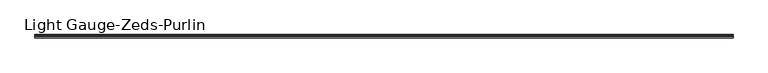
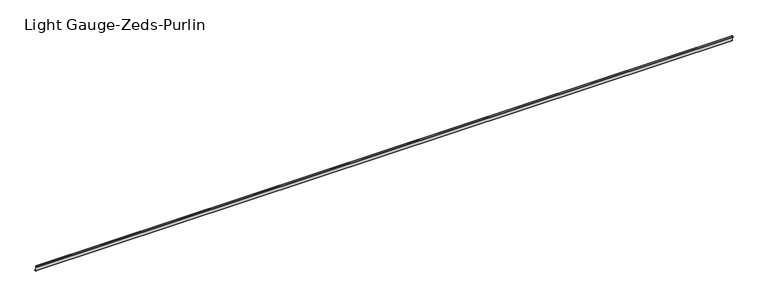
"""IFC4 building model written with IfcOpenShell, lengths in millimetres: beam geometry, Light Gauge-Zeds-Purlin : Metsec-202Z20."""

from ifc_helpers import new_model, si_unit, point, frame, frame_2d, origin, place, context, project, spatial, polyline, circle_curve, trimmed, segment, composite_curve, outline, extrude, source, transform, mapped, element, save


def light_gauge_zeds_purlin_6e7aff67(model_context):
    return source(origin(), model_context, "Body", "SweptSolid", [
        extrude(outline(composite_curve([segment(trimmed(circle_curve(frame_2d((55.8, -97.9)), 4.0), [point((59.8, -97.9))], [point((55.8, -101.9))], False, "CARTESIAN"), True, "CONTINUOUS"), segment(polyline([(55.8, -101.9), (3.8, -101.9)]), True, "CONTINUOUS"), segment(trimmed(circle_curve(frame_2d((3.8, -97.9)), 4.0), [point((3.8, -101.9))], [point((-0.2, -97.9))], False, "CARTESIAN"), True, "CONTINUOUS"), segment(polyline([(-0.2, -97.9), (-0.2, 96.1)]), True, "CONTINUOUS"), segment(trimmed(circle_curve(frame_2d((-2.2, 96.1)), 2.0), [point((-0.2, 96.1))], [point((-2.2, 98.1))], True, "CARTESIAN"), True, "CONTINUOUS"), segment(polyline([(-2.2, 98.1), (-59.2, 98.1)]), True, "CONTINUOUS"), segment(trimmed(circle_curve(frame_2d((-59.2, 96.1)), 2.0), [point((-59.2, 98.1))], [point((-61.2, 96.1))], True, "CARTESIAN"), True, "CONTINUOUS"), segment(polyline([(-61.2, 96.1), (-61.2, 81.1), (-63.2, 81.1), (-63.2, 96.1)]), True, "CONTINUOUS"), segment(trimmed(circle_curve(frame_2d((-59.2, 96.1)), 4.0), [point((-63.2, 96.1))], [point((-59.2, 100.1))], False, "CARTESIAN"), True, "CONTINUOUS"), segment(polyline([(-59.2, 100.1), (-2.2, 100.1)]), True, "CONTINUOUS"), segment(trimmed(circle_curve(frame_2d((-2.2, 96.1)), 4.0), [point((-2.2, 100.1))], [point((1.8, 96.1))], False, "CARTESIAN"), True, "CONTINUOUS"), segment(polyline([(1.8, 96.1), (1.8, -97.9)]), True, "CONTINUOUS"), segment(trimmed(circle_curve(frame_2d((3.8, -97.9)), 2.0), [point((1.8, -97.9))], [point((3.8, -99.9))], True, "CARTESIAN"), True, "CONTINUOUS"), segment(polyline([(3.8, -99.9), (55.8, -99.9)]), True, "CONTINUOUS"), segment(trimmed(circle_curve(frame_2d((55.8, -97.9)), 2.0), [point((55.8, -99.9))], [point((57.8, -97.9))], True, "CARTESIAN"), True, "CONTINUOUS"), segment(polyline([(57.8, -97.9), (57.8, -80.9), (59.8, -80.9), (59.8, -97.9)]), True, "CONTINUOUS")], self_intersect=False)), frame((-13185.0, 0.0, 0.0), z_axis=(1.0, 0.0, 0.0), x_axis=(0.0, 1.0, 0.0)), (0.0, 0.0, 1.0), 26370.0),
    ])


if __name__ == "__main__":
    model = new_model("IFC4")
    model_context = context("Model", 3, world=origin())
    ifc_project = project(units=[si_unit("LENGTHUNIT", "METRE", prefix="MILLI")], contexts=[model_context])
    site = spatial("IfcSite", under=ifc_project)
    building = spatial("IfcBuilding", under=site)
    placement = place(None, origin())
    light_gauge_zeds_purlin_shape = light_gauge_zeds_purlin_6e7aff67(model_context)
    element("IfcBeam", 1, ObjectType="Light Gauge-Zeds-Purlin : Metsec-202Z20", at=placement, inside=building, context=model_context, shape_type="MappedRepresentation", body=[
        mapped(light_gauge_zeds_purlin_shape, transform((0.0, 0.0, 0.0), x_axis=(1.0, 0.0, 0.0), y_axis=(0.0, 1.0, 0.0), z_axis=(0.0, 0.0, 1.0))),
    ])
    save(model, "model.ifc")
